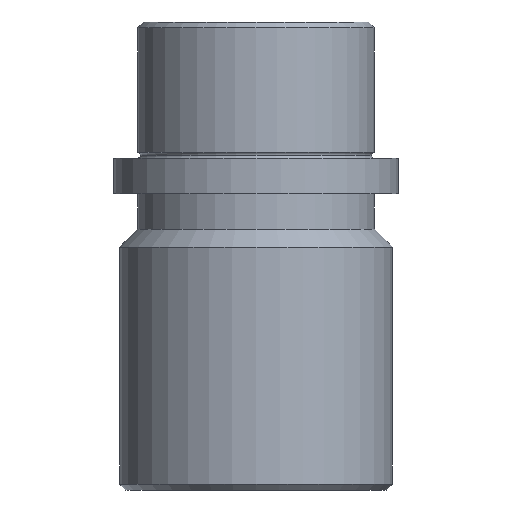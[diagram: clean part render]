
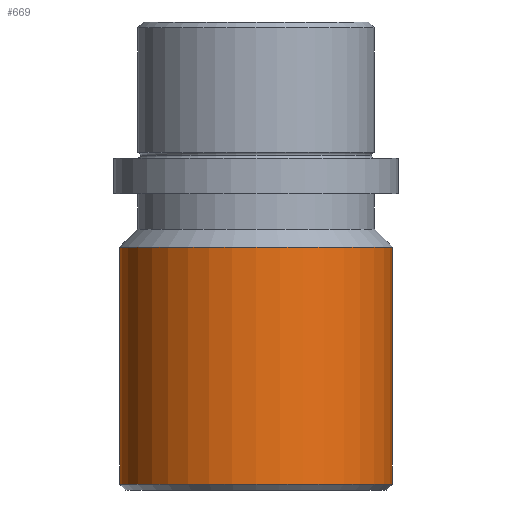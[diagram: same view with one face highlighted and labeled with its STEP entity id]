
A CAD part, front view. The second image highlights one B-rep face of the part: STEP entity #669.
In plain terms, the highlighted cylindrical face has radius 23 mm (diameter 46 mm), a partial arc.
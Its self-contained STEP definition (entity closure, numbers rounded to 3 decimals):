
#1 = DIRECTION ( 'NONE',  ( 1., 0., 0. ) ) ;
#16 = FACE_OUTER_BOUND ( 'NONE', #151, .T. ) ;
#89 = ORIENTED_EDGE ( 'NONE', *, *, #327, .F. ) ;
#151 = EDGE_LOOP ( 'NONE', ( #89, #167, #1074, #869 ) ) ;
#167 = ORIENTED_EDGE ( 'NONE', *, *, #1076, .T. ) ;
#187 = VECTOR ( 'NONE', #971, 1000. ) ;
#217 = EDGE_CURVE ( 'NONE', #1017, #821, #352, .T. ) ;
#224 = VERTEX_POINT ( 'NONE', #791 ) ;
#233 = CARTESIAN_POINT ( 'NONE',  ( 0., 0., -38. ) ) ;
#243 = VECTOR ( 'NONE', #331, 1000. ) ;
#246 = AXIS2_PLACEMENT_3D ( 'NONE', #427, #1067, #1 ) ;
#300 = CARTESIAN_POINT ( 'NONE',  ( 23., 0., -78. ) ) ;
#327 = EDGE_CURVE ( 'NONE', #224, #1017, #887, .T. ) ;
#330 = AXIS2_PLACEMENT_3D ( 'NONE', #826, #725, #373 ) ;
#331 = DIRECTION ( 'NONE',  ( 0., 0., 1. ) ) ;
#332 = CARTESIAN_POINT ( 'NONE',  ( -23., 0., -38. ) ) ;
#335 = CARTESIAN_POINT ( 'NONE',  ( -23., 0., 0. ) ) ;
#352 = CIRCLE ( 'NONE', #685, 23. ) ;
#373 = DIRECTION ( 'NONE',  ( 1., 0., 0. ) ) ;
#427 = CARTESIAN_POINT ( 'NONE',  ( 0., 0., -78. ) ) ;
#453 = DIRECTION ( 'NONE',  ( 0., 0., 1. ) ) ;
#497 = EDGE_CURVE ( 'NONE', #870, #821, #1021, .T. ) ;
#669 = ADVANCED_FACE ( 'NONE', ( #16 ), #684, .T. ) ;
#684 = CYLINDRICAL_SURFACE ( 'NONE', #330, 23. ) ;
#685 = AXIS2_PLACEMENT_3D ( 'NONE', #233, #453, #1019 ) ;
#718 = CARTESIAN_POINT ( 'NONE',  ( 23., 0., -38. ) ) ;
#725 = DIRECTION ( 'NONE',  ( 0., 0., 1. ) ) ;
#791 = CARTESIAN_POINT ( 'NONE',  ( -23., 0., -78. ) ) ;
#821 = VERTEX_POINT ( 'NONE', #718 ) ;
#826 = CARTESIAN_POINT ( 'NONE',  ( 0., 0., 0. ) ) ;
#841 = CIRCLE ( 'NONE', #246, 23. ) ;
#869 = ORIENTED_EDGE ( 'NONE', *, *, #217, .F. ) ;
#870 = VERTEX_POINT ( 'NONE', #300 ) ;
#873 = CARTESIAN_POINT ( 'NONE',  ( 23., 0., 0. ) ) ;
#887 = LINE ( 'NONE', #335, #243 ) ;
#971 = DIRECTION ( 'NONE',  ( 0., 0., 1. ) ) ;
#1017 = VERTEX_POINT ( 'NONE', #332 ) ;
#1019 = DIRECTION ( 'NONE',  ( 1., 0., 0. ) ) ;
#1021 = LINE ( 'NONE', #873, #187 ) ;
#1067 = DIRECTION ( 'NONE',  ( 0., 0., 1. ) ) ;
#1074 = ORIENTED_EDGE ( 'NONE', *, *, #497, .T. ) ;
#1076 = EDGE_CURVE ( 'NONE', #224, #870, #841, .T. ) ;
